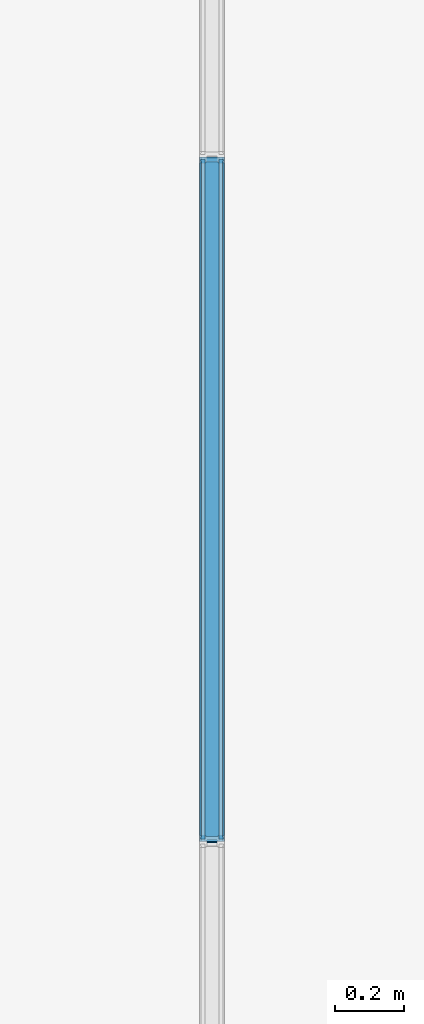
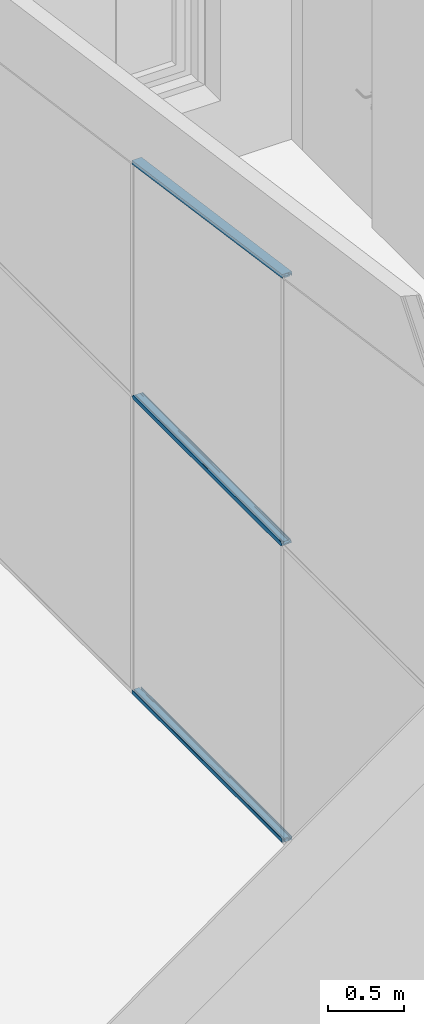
# One storey, part 15 of 246: 3 members, 1 element without a shape of its own.
"""IFC2X3 building model written with IfcOpenShell, lengths in millimetres."""

from ifc_helpers import new_model, entity, si_unit, converted_unit, derived_unit, money_unit, direction, frame, origin_with_axes, place, context, subcontext, project, spatial, faceted_brep, source, transform, mapped, material, material_list, type_object, element, aggregate, save


model = new_model("IFC2X3")

# Units and contexts
model_context = context("Model", 3, precision=0.01, world=origin_with_axes(), true_north=direction((0.0, 1.0)))
body_context = subcontext(model_context, "Body", "Model", "MODEL_VIEW")
ifc_project = project(units=[si_unit("LENGTHUNIT", "METRE", prefix="MILLI"), si_unit("AREAUNIT", "SQUARE_METRE"), si_unit("VOLUMEUNIT", "CUBIC_METRE"), converted_unit("PLANEANGLEUNIT", "DEGREE", entity("IfcPlaneAngleMeasure", 0.0174532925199), si_unit("PLANEANGLEUNIT", "RADIAN"), dimensions=[0, 0, 0, 0, 0, 0, 0]), si_unit("SOLIDANGLEUNIT", "STERADIAN"), money_unit("EUR"), converted_unit("TIMEUNIT", "Year", entity("IfcTimeMeasure", 31556926.0), si_unit("TIMEUNIT", "SECOND"), dimensions=[0, 0, 1, 0, 0, 0, 0]), si_unit("MASSUNIT", "GRAM", prefix="KILO"), si_unit("THERMODYNAMICTEMPERATUREUNIT", "DEGREE_CELSIUS"), si_unit("LUMINOUSINTENSITYUNIT", "LUMEN"), si_unit("ENERGYUNIT", "JOULE", prefix="MEGA"), derived_unit("THERMALCONDUCTANCEUNIT", [(si_unit("POWERUNIT", "WATT"), 1), (si_unit("LENGTHUNIT", "METRE"), -1), (si_unit("THERMODYNAMICTEMPERATUREUNIT", "KELVIN"), -1)]), derived_unit("SPECIFICHEATCAPACITYUNIT", [(si_unit("ENERGYUNIT", "JOULE"), 1), (si_unit("MASSUNIT", "GRAM", prefix="KILO"), -1), (si_unit("THERMODYNAMICTEMPERATUREUNIT", "KELVIN"), -1)]), derived_unit("MASSDENSITYUNIT", [(si_unit("MASSUNIT", "GRAM", prefix="KILO"), 1), (si_unit("VOLUMEUNIT", "CUBIC_METRE"), -1)])], contexts=[model_context])

# Site, building, storey
site_placement = place(None, origin_with_axes())
site = spatial("IfcSite", under=ifc_project, at=site_placement, Name="L.Koidula tn 11b", CompositionType="ELEMENT")
building_placement = place(site_placement, origin_with_axes())
building = spatial("IfcBuilding", under=site, at=building_placement, Name="Rakvere Riigigümnaasium", CompositionType="ELEMENT")
storey_placement = place(building_placement, origin_with_axes())
storey = spatial("IfcBuildingStorey", under=building, at=storey_placement, Name="1.korrus 0,00", CompositionType="ELEMENT", Elevation=0.0)

# Curtain wall, members
curtain_wall_type = type_object("IfcCurtainWallType", Name="Curtain Wall Type", PredefinedType="NOTDEFINED")
curtain_wall_placement = place(storey_placement, frame((32835.0202258, 67589.2016838, 0.0), z_axis=(0.0, 0.0, 1.0), x_axis=(1.0, 0.0, 0.0)))
curtain_wall = element("IfcCurtainWall", 1, at=curtain_wall_placement, inside=storey, type_object=curtain_wall_type, Name="SKLF-02")
ifc_material_1 = material(Name="Klaasvill")
ifc_material_2 = material(Name="Teras RAL7012")
ifc_material_list = material_list([ifc_material_1, ifc_material_2])
member_type_1 = type_object("IfcMemberType", Name="Boundary Frame 30 x 42", PredefinedType="MULLION")
shared_shape_1 = source(origin_with_axes(), body_context, "Body", "Brep", [
    faceted_brep([(7.49999990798, 15.000000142, -1.53444652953e-06), (13.8499999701, 15.000000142, -1.53444652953e-06), (13.8499999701, 15.000000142, 2007.53714433), (7.49999990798, 15.000000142, 2007.53714433), (7.49999990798, 29.0161444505, -1.53444652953e-06), (13.8499999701, 29.0161444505, -1.53444652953e-06), (13.8499999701, 29.0161444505, 2007.53714433), (7.49999990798, 29.0161444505, 2007.53714433)], [[[0, 1, 2, 3]], [[0, 4, 5, 1]], [[1, 5, 6, 2]], [[3, 2, 6, 7]], [[4, 0, 3, 7]], [[5, 4, 7, 6]]]),
    faceted_brep([(24.987414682, 29.0161444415, -1.53444652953e-06), (25.004489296, 27.0307503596, -1.53444652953e-06), (25.004489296, 27.0307503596, 2007.53714433), (24.987414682, 29.0161444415, 2007.53714433), (28.5126239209, 29.0161444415, -1.53444652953e-06), (28.7655837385, 28.0385325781, -1.53444652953e-06), (28.4955493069, 27.0307503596, -1.53444652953e-06), (27.75780152, 26.2930025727, -1.53444652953e-06), (26.7500193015, 26.0229681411, -1.53444652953e-06), (25.742237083, 26.2930025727, -1.53444652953e-06), (25.742237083, 26.2930025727, 2007.53714433), (26.7500193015, 26.0229681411, 2007.53714433), (27.75780152, 26.2930025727, 2007.53714433), (28.4955493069, 27.0307503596, 2007.53714433), (28.7655837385, 28.0385325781, 2007.53714433), (28.5126239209, 29.0161444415, 2007.53714433)], [[[0, 1, 2, 3]], [[0, 4, 5, 6, 7, 8, 9, 1]], [[1, 9, 10, 2]], [[3, 2, 10, 11, 12, 13, 14, 15]], [[4, 0, 3, 15]], [[5, 4, 15, 14]], [[6, 5, 14, 13]], [[7, 6, 13, 12]], [[8, 7, 12, 11]], [[9, 8, 11, 10]]]),
    faceted_brep([(7.49999990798, -24.9999997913, -1.53444652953e-06), (7.49999990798, -39.0161445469, -1.53444652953e-06), (7.49999990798, -39.0161445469, 2007.53714433), (7.49999990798, -24.9999997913, 2007.53714433), (13.8499999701, -24.9999997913, -1.53444652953e-06), (13.8499999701, -39.0161445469, -1.53444652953e-06), (13.8499999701, -39.0161445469, 2007.53714433), (13.8499999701, -24.9999997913, 2007.53714433)], [[[0, 1, 2, 3]], [[0, 4, 5, 1]], [[1, 5, 6, 2]], [[3, 2, 6, 7]], [[4, 0, 3, 7]], [[5, 4, 7, 6]]]),
    faceted_brep([(25.004489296, -37.0307503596, -1.53444652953e-06), (24.987414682, -39.0161444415, -1.53444652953e-06), (24.987414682, -39.0161444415, 2007.53714433), (25.004489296, -37.0307503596, 2007.53714433), (25.742237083, -36.2930025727, -1.53444652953e-06), (26.7500193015, -36.0229681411, -1.53444652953e-06), (27.75780152, -36.2930025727, -1.53444652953e-06), (28.4955493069, -37.0307503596, -1.53444652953e-06), (28.7655837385, -38.0385325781, -1.53444652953e-06), (28.5126239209, -39.0161444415, -1.53444652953e-06), (28.5126239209, -39.0161444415, 2007.53714433), (28.7655837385, -38.0385325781, 2007.53714433), (28.4955493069, -37.0307503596, 2007.53714433), (27.75780152, -36.2930025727, 2007.53714433), (26.7500193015, -36.0229681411, 2007.53714433), (25.742237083, -36.2930025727, 2007.53714433)], [[[0, 1, 2, 3]], [[0, 4, 5, 6, 7, 8, 9, 1]], [[1, 9, 10, 2]], [[3, 2, 10, 11, 12, 13, 14, 15]], [[4, 0, 3, 15]], [[5, 4, 15, 14]], [[6, 5, 14, 13]], [[7, 6, 13, 12]], [[8, 7, 12, 11]], [[9, 8, 11, 10]]]),
    faceted_brep([(0.0, -22.0000000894, -1.53444652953e-06), (29.5999996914, -22.0000000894, -1.53444652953e-06), (29.5999996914, -22.0000000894, 2007.53714433), (0.0, -22.0000000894, 2007.53714433), (0.0, 12.0000000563, -1.53444652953e-06), (29.5999996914, 12.0000000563, -1.53444652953e-06), (1.9999999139, 10.0000001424, -1.53444652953e-06), (1.9999999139, -20.0000001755, -1.53444652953e-06), (18.7999996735, -20.0000001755, -1.53444652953e-06), (18.7999996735, 10.0000001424, -1.53444652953e-06), (29.5999996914, 12.0000000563, 2007.53714433), (0.0, 12.0000000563, 2007.53714433), (1.9999999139, 10.0000001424, 2007.53714433), (18.7999996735, 10.0000001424, 2007.53714433), (18.7999996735, -20.0000001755, 2007.53714433), (1.9999999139, -20.0000001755, 2007.53714433)], [[[0, 1, 2, 3]], [[0, 4, 5, 1], [6, 7, 8, 9]], [[1, 5, 10, 2]], [[3, 2, 10, 11], [12, 13, 14, 15]], [[4, 0, 3, 11]], [[5, 4, 11, 10]], [[7, 6, 12, 15]], [[8, 7, 15, 14]], [[9, 8, 14, 13]], [[6, 9, 13, 12]]]),
    faceted_brep([(0.0, 12.0, -1.53444652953e-06), (29.5999996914, 12.0000000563, -1.53444652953e-06), (29.5999996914, 12.0000000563, 2007.53714433), (0.0, 12.0, 2007.53714433), (0.0, 32.0, -1.53444652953e-06), (30.0000193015, 32.0, -1.53444652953e-06), (30.0000193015, 29.0161444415, -1.53444652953e-06), (28.5126239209, 29.0161444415, -1.53444652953e-06), (24.987414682, 29.0161444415, -1.53444652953e-06), (13.8499999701, 29.0161444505, -1.53444652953e-06), (7.49999999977, 29.0161444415, -1.53444652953e-06), (7.49999999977, 15.0, -1.53444652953e-06), (13.8499999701, 15.000000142, -1.53444652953e-06), (30.0000193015, 15.0, -1.53444652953e-06), (30.0000193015, 12.0, -1.53444652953e-06), (30.0000193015, 12.0, 2007.53714433), (30.0000193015, 15.0, 2007.53714433), (13.8499999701, 15.000000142, 2007.53714433), (7.49999999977, 15.0, 2007.53714433), (7.49999999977, 29.0161444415, 2007.53714433), (13.8499999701, 29.0161444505, 2007.53714433), (24.987414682, 29.0161444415, 2007.53714433), (28.5126239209, 29.0161444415, 2007.53714433), (30.0000193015, 29.0161444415, 2007.53714433), (30.0000193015, 32.0, 2007.53714433), (0.0, 32.0, 2007.53714433)], [[[0, 1, 2, 3]], [[0, 4, 5, 6, 7, 8, 9, 10, 11, 12, 13, 14, 1]], [[1, 14, 15, 2]], [[3, 2, 15, 16, 17, 18, 19, 20, 21, 22, 23, 24, 25]], [[4, 0, 3, 25]], [[5, 4, 25, 24]], [[6, 5, 24, 23]], [[7, 6, 23, 22]], [[8, 7, 22, 21]], [[9, 8, 21, 20]], [[10, 9, 20, 19]], [[11, 10, 19, 18]], [[12, 11, 18, 17]], [[13, 12, 17, 16]], [[14, 13, 16, 15]]]),
    faceted_brep([(0.0, -22.0, -1.53444652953e-06), (0.0, -42.0, -1.53444652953e-06), (0.0, -42.0, 2007.53714433), (0.0, -22.0, 2007.53714433), (29.5999996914, -22.0000000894, -1.53444652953e-06), (30.0000193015, -22.0, -1.53444652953e-06), (30.0000193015, -25.0, -1.53444652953e-06), (13.8499999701, -24.9999997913, -1.53444652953e-06), (7.49999999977, -25.0, -1.53444652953e-06), (7.49999999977, -39.0161444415, -1.53444652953e-06), (13.8499999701, -39.0161445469, -1.53444652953e-06), (24.987414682, -39.0161444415, -1.53444652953e-06), (28.5126239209, -39.0161444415, -1.53444652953e-06), (30.0000193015, -39.0161444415, -1.53444652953e-06), (30.0000193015, -42.0, -1.53444652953e-06), (30.0000193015, -42.0, 2007.53714433), (30.0000193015, -39.0161444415, 2007.53714433), (28.5126239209, -39.0161444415, 2007.53714433), (24.987414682, -39.0161444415, 2007.53714433), (13.8499999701, -39.0161445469, 2007.53714433), (7.49999999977, -39.0161444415, 2007.53714433), (7.49999999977, -25.0, 2007.53714433), (13.8499999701, -24.9999997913, 2007.53714433), (30.0000193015, -25.0, 2007.53714433), (30.0000193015, -22.0, 2007.53714433), (29.5999996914, -22.0000000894, 2007.53714433)], [[[0, 1, 2, 3]], [[0, 4, 5, 6, 7, 8, 9, 10, 11, 12, 13, 14, 1]], [[1, 14, 15, 2]], [[3, 2, 15, 16, 17, 18, 19, 20, 21, 22, 23, 24, 25]], [[4, 0, 3, 25]], [[5, 4, 25, 24]], [[6, 5, 24, 23]], [[7, 6, 23, 22]], [[8, 7, 22, 21]], [[9, 8, 21, 20]], [[10, 9, 20, 19]], [[11, 10, 19, 18]], [[12, 11, 18, 17]], [[13, 12, 17, 16]], [[14, 13, 16, 15]]]),
])
member_1_placement = place(curtain_wall_placement, frame((0.0, -2981.25, 4585.44586279), z_axis=(0.0, 0.990019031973, -0.140933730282), x_axis=(0.0, -0.140933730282, -0.990019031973)))
member_1 = element("IfcMember", 2, at=member_1_placement, type_object=member_type_1, material=ifc_material_list, Name="SKLF-15-raam", ObjectType="MULLION", context=body_context, shape_type="MappedRepresentation", body=[
    mapped(shared_shape_1, transform((0.0, 0.0, 0.0))),
])
shared_shape_2 = source(origin_with_axes(), body_context, "Body", "Brep", [
    faceted_brep([(7.49999990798, 15.000000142, 0.0), (13.8499999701, 15.000000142, 0.0), (13.8499999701, 15.000000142, 1987.5), (7.49999990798, 15.000000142, 1987.5), (7.49999990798, 29.0161444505, 0.0), (13.8499999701, 29.0161444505, 0.0), (13.8499999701, 29.0161444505, 1987.5), (7.49999990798, 29.0161444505, 1987.5)], [[[0, 1, 2, 3]], [[0, 4, 5, 1]], [[1, 5, 6, 2]], [[3, 2, 6, 7]], [[4, 0, 3, 7]], [[5, 4, 7, 6]]]),
    faceted_brep([(24.987414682, 29.0161444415, 0.0), (25.004489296, 27.0307503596, 0.0), (25.004489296, 27.0307503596, 1987.5), (24.987414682, 29.0161444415, 1987.5), (28.5126239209, 29.0161444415, 0.0), (28.7655837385, 28.0385325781, 0.0), (28.4955493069, 27.0307503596, 0.0), (27.75780152, 26.2930025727, 0.0), (26.7500193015, 26.0229681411, 0.0), (25.742237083, 26.2930025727, 0.0), (25.742237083, 26.2930025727, 1987.5), (26.7500193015, 26.0229681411, 1987.5), (27.75780152, 26.2930025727, 1987.5), (28.4955493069, 27.0307503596, 1987.5), (28.7655837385, 28.0385325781, 1987.5), (28.5126239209, 29.0161444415, 1987.5)], [[[0, 1, 2, 3]], [[0, 4, 5, 6, 7, 8, 9, 1]], [[1, 9, 10, 2]], [[3, 2, 10, 11, 12, 13, 14, 15]], [[4, 0, 3, 15]], [[5, 4, 15, 14]], [[6, 5, 14, 13]], [[7, 6, 13, 12]], [[8, 7, 12, 11]], [[9, 8, 11, 10]]]),
    faceted_brep([(7.49999990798, -24.9999997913, 0.0), (7.49999990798, -39.0161445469, 0.0), (7.49999990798, -39.0161445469, 1987.5), (7.49999990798, -24.9999997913, 1987.5), (13.8499999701, -24.9999997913, 0.0), (13.8499999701, -39.0161445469, 0.0), (13.8499999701, -39.0161445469, 1987.5), (13.8499999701, -24.9999997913, 1987.5)], [[[0, 1, 2, 3]], [[0, 4, 5, 1]], [[1, 5, 6, 2]], [[3, 2, 6, 7]], [[4, 0, 3, 7]], [[5, 4, 7, 6]]]),
    faceted_brep([(25.004489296, -37.0307503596, 0.0), (24.987414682, -39.0161444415, 0.0), (24.987414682, -39.0161444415, 1987.5), (25.004489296, -37.0307503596, 1987.5), (25.742237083, -36.2930025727, 0.0), (26.7500193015, -36.0229681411, 0.0), (27.75780152, -36.2930025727, 0.0), (28.4955493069, -37.0307503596, 0.0), (28.7655837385, -38.0385325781, 0.0), (28.5126239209, -39.0161444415, 0.0), (28.5126239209, -39.0161444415, 1987.5), (28.7655837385, -38.0385325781, 1987.5), (28.4955493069, -37.0307503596, 1987.5), (27.75780152, -36.2930025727, 1987.5), (26.7500193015, -36.0229681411, 1987.5), (25.742237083, -36.2930025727, 1987.5)], [[[0, 1, 2, 3]], [[0, 4, 5, 6, 7, 8, 9, 1]], [[1, 9, 10, 2]], [[3, 2, 10, 11, 12, 13, 14, 15]], [[4, 0, 3, 15]], [[5, 4, 15, 14]], [[6, 5, 14, 13]], [[7, 6, 13, 12]], [[8, 7, 12, 11]], [[9, 8, 11, 10]]]),
    faceted_brep([(0.0, -22.0000000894, 0.0), (29.5999996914, -22.0000000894, 0.0), (29.5999996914, -22.0000000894, 1987.5), (0.0, -22.0000000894, 1987.5), (0.0, 12.0000000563, 0.0), (29.5999996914, 12.0000000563, 0.0), (1.9999999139, 10.0000001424, 0.0), (1.9999999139, -20.0000001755, 0.0), (18.7999996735, -20.0000001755, 0.0), (18.7999996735, 10.0000001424, 0.0), (29.5999996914, 12.0000000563, 1987.5), (0.0, 12.0000000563, 1987.5), (1.9999999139, 10.0000001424, 1987.5), (18.7999996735, 10.0000001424, 1987.5), (18.7999996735, -20.0000001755, 1987.5), (1.9999999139, -20.0000001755, 1987.5)], [[[0, 1, 2, 3]], [[0, 4, 5, 1], [6, 7, 8, 9]], [[1, 5, 10, 2]], [[3, 2, 10, 11], [12, 13, 14, 15]], [[4, 0, 3, 11]], [[5, 4, 11, 10]], [[7, 6, 12, 15]], [[8, 7, 15, 14]], [[9, 8, 14, 13]], [[6, 9, 13, 12]]]),
    faceted_brep([(0.0, 12.0, 0.0), (29.5999996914, 12.0000000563, 0.0), (29.5999996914, 12.0000000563, 1987.5), (0.0, 12.0, 1987.5), (0.0, 32.0, 0.0), (30.0000193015, 32.0, 0.0), (30.0000193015, 29.0161444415, 0.0), (28.5126239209, 29.0161444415, 0.0), (24.987414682, 29.0161444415, 0.0), (13.8499999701, 29.0161444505, 0.0), (7.49999999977, 29.0161444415, 0.0), (7.49999999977, 15.0, 0.0), (13.8499999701, 15.000000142, 0.0), (30.0000193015, 15.0, 0.0), (30.0000193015, 12.0, 0.0), (30.0000193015, 12.0, 1987.5), (30.0000193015, 15.0, 1987.5), (13.8499999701, 15.000000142, 1987.5), (7.49999999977, 15.0, 1987.5), (7.49999999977, 29.0161444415, 1987.5), (13.8499999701, 29.0161444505, 1987.5), (24.987414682, 29.0161444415, 1987.5), (28.5126239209, 29.0161444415, 1987.5), (30.0000193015, 29.0161444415, 1987.5), (30.0000193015, 32.0, 1987.5), (0.0, 32.0, 1987.5)], [[[0, 1, 2, 3]], [[0, 4, 5, 6, 7, 8, 9, 10, 11, 12, 13, 14, 1]], [[1, 14, 15, 2]], [[3, 2, 15, 16, 17, 18, 19, 20, 21, 22, 23, 24, 25]], [[4, 0, 3, 25]], [[5, 4, 25, 24]], [[6, 5, 24, 23]], [[7, 6, 23, 22]], [[8, 7, 22, 21]], [[9, 8, 21, 20]], [[10, 9, 20, 19]], [[11, 10, 19, 18]], [[12, 11, 18, 17]], [[13, 12, 17, 16]], [[14, 13, 16, 15]]]),
    faceted_brep([(0.0, -22.0, 0.0), (0.0, -42.0, 0.0), (0.0, -42.0, 1987.5), (0.0, -22.0, 1987.5), (29.5999996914, -22.0000000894, 0.0), (30.0000193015, -22.0, 0.0), (30.0000193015, -25.0, 0.0), (13.8499999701, -24.9999997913, 0.0), (7.49999999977, -25.0, 0.0), (7.49999999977, -39.0161444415, 0.0), (13.8499999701, -39.0161445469, 0.0), (24.987414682, -39.0161444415, 0.0), (28.5126239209, -39.0161444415, 0.0), (30.0000193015, -39.0161444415, 0.0), (30.0000193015, -42.0, 0.0), (30.0000193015, -42.0, 1987.5), (30.0000193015, -39.0161444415, 1987.5), (28.5126239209, -39.0161444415, 1987.5), (24.987414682, -39.0161444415, 1987.5), (13.8499999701, -39.0161445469, 1987.5), (7.49999999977, -39.0161444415, 1987.5), (7.49999999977, -25.0, 1987.5), (13.8499999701, -24.9999997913, 1987.5), (30.0000193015, -25.0, 1987.5), (30.0000193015, -22.0, 1987.5), (29.5999996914, -22.0000000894, 1987.5)], [[[0, 1, 2, 3]], [[0, 4, 5, 6, 7, 8, 9, 10, 11, 12, 13, 14, 1]], [[1, 14, 15, 2]], [[3, 2, 15, 16, 17, 18, 19, 20, 21, 22, 23, 24, 25]], [[4, 0, 3, 25]], [[5, 4, 25, 24]], [[6, 5, 24, 23]], [[7, 6, 23, 22]], [[8, 7, 22, 21]], [[9, 8, 21, 20]], [[10, 9, 20, 19]], [[11, 10, 19, 18]], [[12, 11, 18, 17]], [[13, 12, 17, 16]], [[14, 13, 16, 15]]]),
])
member_2_placement = place(curtain_wall_placement, frame((0.0, -993.75, 0.0), z_axis=(0.0, -1.0, 0.0), x_axis=(0.0, 0.0, 1.0)))
member_2 = element("IfcMember", 3, at=member_2_placement, type_object=member_type_1, material=ifc_material_list, Name="SKLF-06-raam", ObjectType="MULLION", context=body_context, shape_type="MappedRepresentation", body=[
    mapped(shared_shape_2, transform((0.0, 0.0, 0.0))),
])
member_type_2 = type_object("IfcMemberType", Name="Siseklaasfassaad-Vaheprofiil-Doubleline30 34 x 42", PredefinedType="MULLION")
shared_shape_3 = source(origin_with_axes(), body_context, "Body", "Brep", [
    faceted_brep([(15.4955493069, 27.0307503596, 15.4955493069), (15.7655837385, 28.0385325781, 15.7655837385), (15.7655837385, 28.0385325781, 1971.73441626), (15.4955493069, 27.0307503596, 1972.00445069), (15.5126239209, 29.0161444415, 15.5126239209), (14.75780152, 26.2930025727, 14.75780152), (13.7500193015, 26.0229681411, 13.7500193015), (12.742237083, 26.2930025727, 12.742237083), (12.004489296, 27.0307503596, 12.004489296), (11.987414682, 29.0161444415, 11.987414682), (15.5126239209, 29.0161444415, 1971.98737608), (12.742237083, 26.2930025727, 1974.75776292), (13.7500193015, 26.0229681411, 1973.7499807), (14.75780152, 26.2930025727, 1972.74219848), (11.987414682, 29.0161444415, 1975.51258532), (12.004489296, 27.0307503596, 1975.4955107)], [[[0, 1, 2, 3]], [[4, 1, 0, 5, 6, 7, 8, 9]], [[1, 4, 10, 2]], [[11, 12, 13, 3, 2, 10, 14, 15]], [[5, 0, 3, 13]], [[6, 5, 13, 12]], [[7, 6, 12, 11]], [[8, 7, 11, 15]], [[9, 8, 15, 14]], [[4, 9, 14, 10]]]),
    faceted_brep([(11.987414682, -39.0161444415, 11.987414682), (15.5126239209, -39.0161444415, 15.5126239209), (15.5126239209, -39.0161444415, 1971.98737608), (11.987414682, -39.0161444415, 1975.51258532), (15.4955493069, -37.0307503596, 15.4955493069), (11.7344548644, -38.0385325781, 11.7344548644), (12.004489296, -37.0307503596, 12.004489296), (12.742237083, -36.2930025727, 12.742237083), (13.7500193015, -36.0229681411, 13.7500193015), (14.75780152, -36.2930025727, 14.75780152), (15.4955493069, -37.0307503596, 1972.00445069), (12.742237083, -36.2930025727, 1974.75776292), (12.004489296, -37.0307503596, 1975.4955107), (11.7344548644, -38.0385325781, 1975.76554514), (14.75780152, -36.2930025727, 1972.74219848), (13.7500193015, -36.0229681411, 1973.7499807)], [[[0, 1, 2, 3]], [[4, 1, 0, 5, 6, 7, 8, 9]], [[1, 4, 10, 2]], [[11, 12, 13, 3, 2, 10, 14, 15]], [[5, 0, 3, 13]], [[6, 5, 13, 12]], [[7, 6, 12, 11]], [[8, 7, 11, 15]], [[9, 8, 15, 14]], [[4, 9, 14, 10]]]),
    faceted_brep([(-12.004489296, 27.0307503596, 12.004489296), (-11.7344548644, 28.0385325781, 11.7344548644), (-11.7344548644, 28.0385325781, 1975.76554514), (-12.004489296, 27.0307503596, 1975.4955107), (-11.987414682, 29.0161444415, 11.987414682), (-12.742237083, 26.2930025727, 12.742237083), (-13.7500193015, 26.0229681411, 13.7500193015), (-14.75780152, 26.2930025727, 14.75780152), (-15.4955493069, 27.0307503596, 15.4955493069), (-15.7655837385, 28.0385325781, 15.7655837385), (-11.987414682, 29.0161444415, 1975.51258532), (-14.75780152, 26.2930025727, 1972.74219848), (-13.7500193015, 26.0229681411, 1973.7499807), (-12.742237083, 26.2930025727, 1974.75776292), (-15.7655837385, 28.0385325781, 1971.73441626), (-15.4955493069, 27.0307503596, 1972.00445069)], [[[0, 1, 2, 3]], [[4, 1, 0, 5, 6, 7, 8, 9]], [[1, 4, 10, 2]], [[11, 12, 13, 3, 2, 10, 14, 15]], [[5, 0, 3, 13]], [[6, 5, 13, 12]], [[7, 6, 12, 11]], [[8, 7, 11, 15]], [[9, 8, 15, 14]], [[4, 9, 14, 10]]]),
    faceted_brep([(-11.987414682, -39.0161444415, 11.987414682), (-11.7344548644, -38.0385325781, 11.7344548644), (-11.7344548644, -38.0385325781, 1975.76554514), (-11.987414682, -39.0161444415, 1975.51258532), (-12.004489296, -37.0307503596, 12.004489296), (-15.5126239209, -39.0161444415, 15.5126239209), (-15.4955493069, -37.0307503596, 15.4955493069), (-14.75780152, -36.2930025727, 14.75780152), (-13.7500193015, -36.0229681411, 13.7500193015), (-12.742237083, -36.2930025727, 12.742237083), (-12.004489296, -37.0307503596, 1975.4955107), (-14.75780152, -36.2930025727, 1972.74219848), (-15.4955493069, -37.0307503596, 1972.00445069), (-15.5126239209, -39.0161444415, 1971.98737608), (-12.742237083, -36.2930025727, 1974.75776292), (-13.7500193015, -36.0229681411, 1973.7499807)], [[[0, 1, 2, 3]], [[4, 1, 0, 5, 6, 7, 8, 9]], [[1, 4, 10, 2]], [[11, 12, 13, 3, 2, 10, 14, 15]], [[5, 0, 3, 13]], [[6, 5, 13, 12]], [[7, 6, 12, 11]], [[8, 7, 11, 15]], [[9, 8, 15, 14]], [[4, 9, 14, 10]]]),
    faceted_brep([(-12.8000002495, 10.0000001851, 12.8000002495), (0.0, 10.0000001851, 0.0), (4.0000003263, 10.0000001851, 4.0000003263), (4.0000003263, 10.0000001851, 1983.49999967), (0.0, 10.0000001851, 1987.5), (-12.8000002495, 10.0000001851, 1974.69999975), (-14.8000001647, 12.0000001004, 14.8000001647), (0.0, 12.0000001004, 0.0), (-12.8000002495, -20.0000001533, 12.8000002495), (0.0, -20.0000001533, 0.0), (0.0, -22.0000000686, 0.0), (-14.8000001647, -22.0000000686, 14.8000001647), (14.8000003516, 12.0000001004, 14.8000003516), (14.8000003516, -22.0000000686, 14.8000003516), (4.0000003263, -20.0000001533, 4.0000003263), (4.0000003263, -20.0000001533, 1983.49999967), (0.0, -20.0000001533, 1987.5), (0.0, -22.0000000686, 1987.5), (14.8000003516, -22.0000000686, 1972.69999965), (14.8000003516, 12.0000001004, 1972.69999965), (0.0, 12.0000001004, 1987.5), (-12.8000002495, -20.0000001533, 1974.69999975), (-14.8000001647, 12.0000001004, 1972.69999984), (-14.8000001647, -22.0000000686, 1972.69999984)], [[[0, 1, 2, 3, 4, 5]], [[6, 7, 1, 0, 8, 9, 10, 11]], [[7, 12, 13, 10, 9, 14, 2, 1]], [[2, 14, 15, 3]], [[15, 16, 17, 18, 19, 20, 4, 3]], [[21, 5, 4, 20, 22, 23, 17, 16]], [[8, 0, 5, 21]], [[7, 6, 22, 20]], [[9, 8, 21, 16, 15, 14]], [[11, 10, 17, 23]], [[6, 11, 23, 22]], [[12, 7, 20, 19]], [[13, 12, 19, 18]], [[10, 13, 18, 17]]]),
    faceted_brep([(17.0000193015, 29.0161446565, 17.0000193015), (17.0000193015, 32.0000000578, 17.0000193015), (17.0000193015, 32.0000000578, 1970.4999807), (17.0000193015, 29.0161446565, 1970.4999807), (0.0, 32.0000000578, 0.0), (15.5126239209, 29.0161444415, 15.5126239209), (11.987414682, 29.0161444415, 11.987414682), (7.50000002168, 29.0161446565, 7.50000002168), (7.50000002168, 15.0000000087, 7.50000002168), (17.0000193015, 15.0000000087, 17.0000193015), (17.0000193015, 12.0, 17.0000193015), (14.8000003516, 12.0000001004, 14.8000003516), (0.0, 12.0, 0.0), (0.0, 32.0000000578, 1987.5), (7.50000002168, 29.0161446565, 1979.99999998), (11.987414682, 29.0161444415, 1975.51258532), (15.5126239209, 29.0161444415, 1971.98737608), (0.0, 12.0, 1987.5), (14.8000003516, 12.0000001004, 1972.69999965), (17.0000193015, 12.0, 1970.4999807), (17.0000193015, 15.0000000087, 1970.4999807), (7.50000002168, 15.0000000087, 1979.99999998)], [[[0, 1, 2, 3]], [[4, 1, 0, 5, 6, 7, 8, 9, 10, 11, 12]], [[1, 4, 13, 2]], [[14, 15, 16, 3, 2, 13, 17, 18, 19, 20, 21]], [[5, 0, 3, 16]], [[6, 5, 16, 15]], [[7, 6, 15, 14]], [[8, 7, 14, 21]], [[9, 8, 21, 20]], [[10, 9, 20, 19]], [[11, 10, 19, 18]], [[12, 11, 18, 17]], [[4, 12, 17, 13]]]),
    faceted_brep([(17.0000193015, -24.9999999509, 17.0000193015), (17.0000193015, -21.9999999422, 17.0000193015), (17.0000193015, -21.9999999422, 1970.4999807), (17.0000193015, -24.9999999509, 1970.4999807), (14.8000003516, -22.0000000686, 14.8000003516), (7.50000002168, -24.9999999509, 7.50000002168), (7.50000002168, -39.0161445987, 7.50000002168), (11.987414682, -39.0161444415, 11.987414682), (15.5126239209, -39.0161444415, 15.5126239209), (17.0000193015, -39.0161445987, 17.0000193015), (17.0000193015, -42.0, 17.0000193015), (0.0, -42.0, 0.0), (0.0, -21.9999999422, 0.0), (14.8000003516, -22.0000000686, 1972.69999965), (11.987414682, -39.0161444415, 1975.51258532), (7.50000002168, -39.0161445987, 1979.99999998), (7.50000002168, -24.9999999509, 1979.99999998), (0.0, -21.9999999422, 1987.5), (0.0, -42.0, 1987.5), (17.0000193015, -42.0, 1970.4999807), (17.0000193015, -39.0161445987, 1970.4999807), (15.5126239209, -39.0161444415, 1971.98737608)], [[[0, 1, 2, 3]], [[4, 1, 0, 5, 6, 7, 8, 9, 10, 11, 12]], [[1, 4, 13, 2]], [[14, 15, 16, 3, 2, 13, 17, 18, 19, 20, 21]], [[5, 0, 3, 16]], [[6, 5, 16, 15]], [[7, 6, 15, 14]], [[8, 7, 14, 21]], [[9, 8, 21, 20]], [[10, 9, 20, 19]], [[11, 10, 19, 18]], [[12, 11, 18, 17]], [[4, 12, 17, 13]]]),
    faceted_brep([(0.0, 12.0, 0.0), (0.0, 32.0, 0.0), (0.0, 32.0, 1987.5), (0.0, 12.0, 1987.5), (-17.0000193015, 32.0, 17.0000193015), (-14.8000001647, 12.0000001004, 14.8000001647), (-17.0000193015, 12.0, 17.0000193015), (-17.0000193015, 15.0, 17.0000193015), (-7.49999999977, 15.0, 7.49999999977), (-7.49999999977, 29.0161444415, 7.49999999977), (-11.987414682, 29.0161444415, 11.987414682), (-15.5126239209, 29.0161444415, 15.5126239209), (-17.0000193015, 29.0161444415, 17.0000193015), (-17.0000193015, 32.0, 1970.4999807), (-17.0000193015, 12.0, 1970.4999807), (-14.8000001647, 12.0000001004, 1972.69999984), (-17.0000193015, 29.0161444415, 1970.4999807), (-15.5126239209, 29.0161444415, 1971.98737608), (-11.987414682, 29.0161444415, 1975.51258532), (-7.49999999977, 29.0161444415, 1980.0), (-7.49999999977, 15.0, 1980.0), (-17.0000193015, 15.0, 1970.4999807)], [[[0, 1, 2, 3]], [[4, 1, 0, 5, 6, 7, 8, 9, 10, 11, 12]], [[1, 4, 13, 2]], [[14, 15, 3, 2, 13, 16, 17, 18, 19, 20, 21]], [[5, 0, 3, 15]], [[6, 5, 15, 14]], [[7, 6, 14, 21]], [[8, 7, 21, 20]], [[9, 8, 20, 19]], [[10, 9, 19, 18]], [[11, 10, 18, 17]], [[12, 11, 17, 16]], [[4, 12, 16, 13]]]),
    faceted_brep([(0.0, -42.0, 0.0), (0.0, -22.0, 0.0), (0.0, -22.0, 1987.5), (0.0, -42.0, 1987.5), (-14.8000001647, -22.0000000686, 14.8000001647), (-17.0000193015, -42.0, 17.0000193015), (-17.0000193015, -39.0161444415, 17.0000193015), (-15.5126239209, -39.0161444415, 15.5126239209), (-11.987414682, -39.0161444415, 11.987414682), (-7.49999999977, -39.0161444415, 7.49999999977), (-7.49999999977, -25.0, 7.49999999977), (-17.0000193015, -25.0, 17.0000193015), (-17.0000193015, -22.0, 17.0000193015), (-14.8000001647, -22.0000000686, 1972.69999984), (-17.0000193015, -39.0161444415, 1970.4999807), (-17.0000193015, -42.0, 1970.4999807), (-17.0000193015, -22.0, 1970.4999807), (-17.0000193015, -25.0, 1970.4999807), (-7.49999999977, -25.0, 1980.0), (-7.49999999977, -39.0161444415, 1980.0), (-11.987414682, -39.0161444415, 1975.51258532), (-15.5126239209, -39.0161444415, 1971.98737608)], [[[0, 1, 2, 3]], [[4, 1, 0, 5, 6, 7, 8, 9, 10, 11, 12]], [[1, 4, 13, 2]], [[14, 15, 3, 2, 13, 16, 17, 18, 19, 20, 21]], [[5, 0, 3, 15]], [[6, 5, 15, 14]], [[7, 6, 14, 21]], [[8, 7, 21, 20]], [[9, 8, 20, 19]], [[10, 9, 19, 18]], [[11, 10, 18, 17]], [[12, 11, 17, 16]], [[4, 12, 16, 13]]]),
])
member_3_placement = place(curtain_wall_placement, frame((0.0, -993.75, 2400.0), z_axis=(0.0, -1.0, 0.0), x_axis=(0.0, 0.0, 1.0)))
member_3 = element("IfcMember", 4, at=member_3_placement, type_object=member_type_2, material=ifc_material_list, Name="Frame-Siseklaasf-155", ObjectType="MULLION", context=body_context, shape_type="MappedRepresentation", body=[
    mapped(shared_shape_3, transform((0.0, 0.0, 0.0))),
])
aggregate(curtain_wall, [member_2, member_3, member_1])

save(model, "model.ifc")
